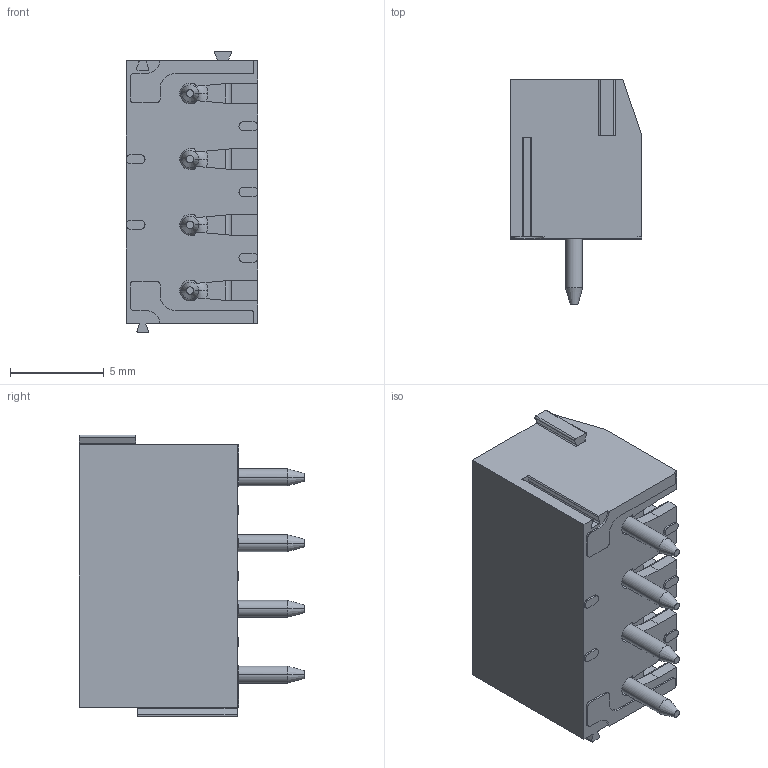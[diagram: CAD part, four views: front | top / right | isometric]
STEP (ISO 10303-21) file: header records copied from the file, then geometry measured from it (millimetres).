
FILE_DESCRIPTION((''),'2;1');
FILE_NAME('4PIN','2021-01-14T',('renkang.li'),(''),'CREO PARAMETRIC BY PTC INC, 2016260','CREO PARAMETRIC BY PTC INC, 2016260','');
FILE_SCHEMA(('CONFIG_CONTROL_DESIGN'));
Length unit declared in the file: millimetre
Products named in the file (1): 4PIN
Bounding box: 7 x 12 x 15 mm (x, y, z)
Volume: 569.5 mm3; surface area: 1513.9 mm2
Topology: 1 solids, 1 shells, 846 faces, 2426 edges, 1561 vertices
Faces by surface type: plane 403, cylinder 279, bspline 68, torus 64, cone 32
Entity records: 38679 total; most frequent: CARTESIAN_POINT 17321, ORIENTED_EDGE 4852, DIRECTION 3949, EDGE_CURVE 2426, VERTEX_POINT 1561, AXIS2_PLACEMENT_3D 1337, VECTOR 1275, LINE 1275
